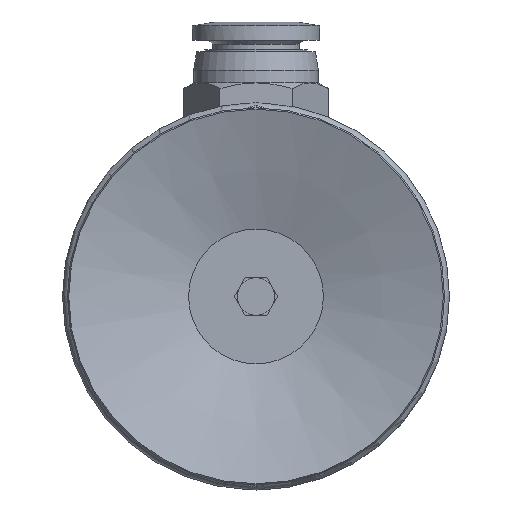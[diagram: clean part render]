
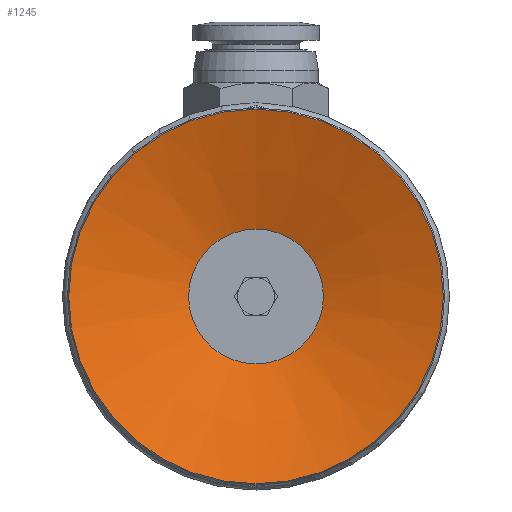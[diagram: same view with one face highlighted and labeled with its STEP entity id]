
A CAD part, front view. The second image highlights one B-rep face of the part: STEP entity #1245.
In plain terms, the highlighted conical face has half-angle 71.075 degrees and reference radius 15 mm.
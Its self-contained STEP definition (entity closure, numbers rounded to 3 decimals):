
#1245=ADVANCED_FACE('',(#3105,#3106),#3107,.F.);
#3105=FACE_BOUND('',#5881,.T.);
#3106=FACE_OUTER_BOUND('',#5882,.T.);
#3107=CONICAL_SURFACE('',#5883,15.0,1.24);
#5881=EDGE_LOOP('',(#9455));
#5882=EDGE_LOOP('',(#9456));
#5883=AXIS2_PLACEMENT_3D('',#9457,#9458,#9459);
#9455=ORIENTED_EDGE('',*,*,#16648,.T.);
#9456=ORIENTED_EDGE('',*,*,#16649,.T.);
#9457=CARTESIAN_POINT('',(0.,0.,0.0));
#9458=DIRECTION('',(0.0,0.,-1.0));
#9459=DIRECTION('',(0.0,1.0,0.));
#16648=EDGE_CURVE('',#20412,#20412,#20413,.T.);
#16649=EDGE_CURVE('',#20414,#20414,#20415,.T.);
#20412=VERTEX_POINT('',#27043);
#20413=CIRCLE('',#27044,5.4);
#20414=VERTEX_POINT('',#27045);
#20415=CIRCLE('',#27046,15.0);
#27043=CARTESIAN_POINT('',(-5.4,0.,3.291));
#27044=AXIS2_PLACEMENT_3D('',#32857,#32858,#32859);
#27045=CARTESIAN_POINT('',(0.,15.0,0.));
#27046=AXIS2_PLACEMENT_3D('',#32860,#32861,#32862);
#32857=CARTESIAN_POINT('',(0.,0.,3.291));
#32858=DIRECTION('',(0.,0.0,1.0));
#32859=DIRECTION('',(-1.0,0.0,0.));
#32860=CARTESIAN_POINT('',(0.,0.,0.0));
#32861=DIRECTION('',(0.0,0.,-1.0));
#32862=DIRECTION('',(0.0,1.0,0.));
